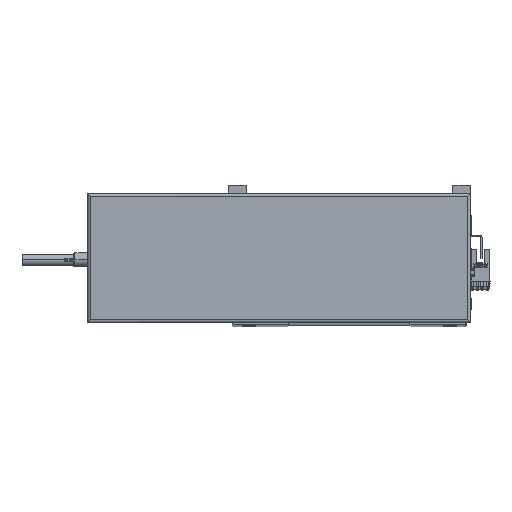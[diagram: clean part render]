
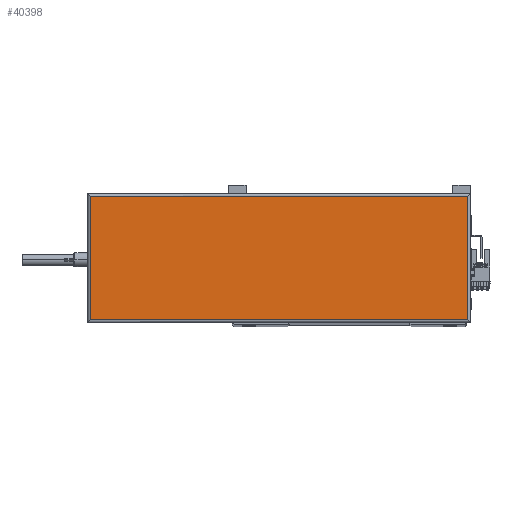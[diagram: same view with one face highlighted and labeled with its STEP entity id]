
A CAD part, top view. The second image highlights one B-rep face of the part: STEP entity #40398.
In plain terms, the highlighted planar face has unit normal (0, 0, 1).
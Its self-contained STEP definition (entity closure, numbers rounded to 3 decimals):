
#1577 = CARTESIAN_POINT ( 'NONE',  ( 2., 0., 44.8 ) ) ;
#3623 = ORIENTED_EDGE ( 'NONE', *, *, #6141, .T. ) ;
#6141 = EDGE_CURVE ( 'NONE', #20220, #9460, #44241, .T. ) ;
#8550 = CARTESIAN_POINT ( 'NONE',  ( 265., 88., 44.8 ) ) ;
#9460 = VERTEX_POINT ( 'NONE', #16927 ) ;
#12835 = ORIENTED_EDGE ( 'NONE', *, *, #16509, .T. ) ;
#15951 = DIRECTION ( 'NONE',  ( 1., 0., 0. ) ) ;
#16112 = DIRECTION ( 'NONE',  ( 0., 0., 1. ) ) ;
#16141 = CARTESIAN_POINT ( 'NONE',  ( 265., 90., 44.8 ) ) ;
#16509 = EDGE_CURVE ( 'NONE', #25935, #20220, #47233, .T. ) ;
#16537 = VECTOR ( 'NONE', #33732, 1000. ) ;
#16927 = CARTESIAN_POINT ( 'NONE',  ( 2., 88., 44.8 ) ) ;
#17871 = EDGE_CURVE ( 'NONE', #9460, #29297, #22830, .T. ) ;
#18659 = VECTOR ( 'NONE', #25437, 1000. ) ;
#19294 = DIRECTION ( 'NONE',  ( 0., 1., 0. ) ) ;
#19955 = FACE_OUTER_BOUND ( 'NONE', #45483, .T. ) ;
#20033 = EDGE_CURVE ( 'NONE', #29297, #25935, #40151, .T. ) ;
#20220 = VERTEX_POINT ( 'NONE', #8550 ) ;
#21259 = ORIENTED_EDGE ( 'NONE', *, *, #17871, .T. ) ;
#22093 = AXIS2_PLACEMENT_3D ( 'NONE', #36343, #16112, #15951 ) ;
#22830 = LINE ( 'NONE', #1577, #16537 ) ;
#23995 = PLANE ( 'NONE',  #22093 ) ;
#24368 = ORIENTED_EDGE ( 'NONE', *, *, #20033, .T. ) ;
#25189 = CARTESIAN_POINT ( 'NONE',  ( 265., 2., 44.8 ) ) ;
#25437 = DIRECTION ( 'NONE',  ( -1., 0., 0. ) ) ;
#25935 = VERTEX_POINT ( 'NONE', #25189 ) ;
#28723 = CARTESIAN_POINT ( 'NONE',  ( 2., 2., 44.8 ) ) ;
#29297 = VERTEX_POINT ( 'NONE', #28723 ) ;
#32700 = VECTOR ( 'NONE', #46951, 1000. ) ;
#33732 = DIRECTION ( 'NONE',  ( 0., -1., 0. ) ) ;
#36022 = VECTOR ( 'NONE', #19294, 1000. ) ;
#36343 = CARTESIAN_POINT ( 'NONE',  ( 133.5, 45., 44.8 ) ) ;
#39775 = CARTESIAN_POINT ( 'NONE',  ( 267., 2., 44.8 ) ) ;
#40151 = LINE ( 'NONE', #39775, #32700 ) ;
#40398 = ADVANCED_FACE ( 'NONE', ( #19955 ), #23995, .T. ) ;
#41130 = CARTESIAN_POINT ( 'NONE',  ( 0., 88., 44.8 ) ) ;
#44241 = LINE ( 'NONE', #41130, #18659 ) ;
#45483 = EDGE_LOOP ( 'NONE', ( #12835, #3623, #21259, #24368 ) ) ;
#46951 = DIRECTION ( 'NONE',  ( 1., 0., 0. ) ) ;
#47233 = LINE ( 'NONE', #16141, #36022 ) ;
